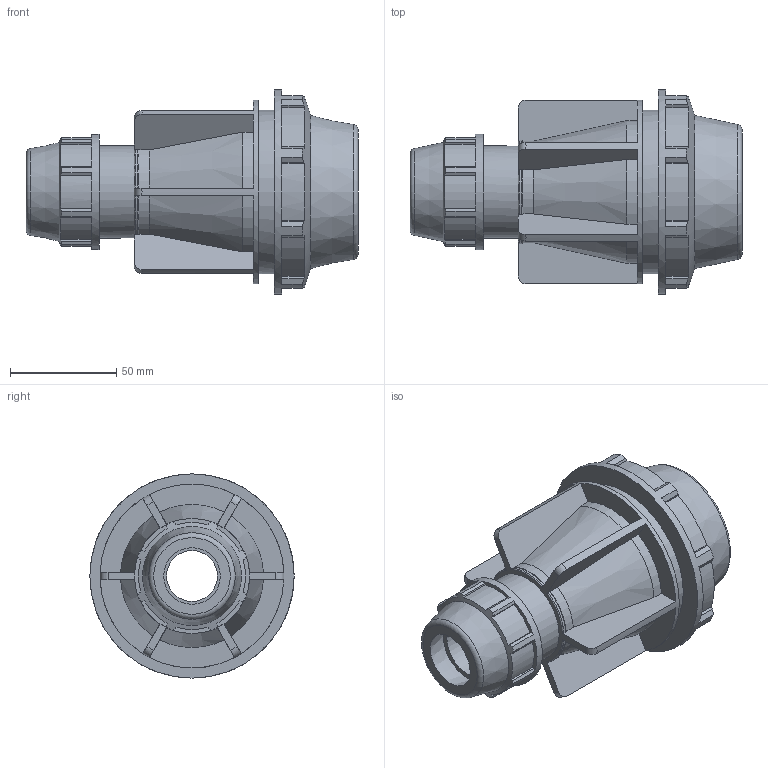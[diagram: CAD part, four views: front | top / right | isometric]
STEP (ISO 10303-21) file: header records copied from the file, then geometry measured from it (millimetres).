
FILE_DESCRIPTION(/* description */ ('PLASSON REDUCING COUPLER 1 1/4'''' - 1'''''),/* implementation_level */ '2;1');
FILE_NAME(/* name */ 'C:\Dropbox\KIMPROJECTS-Inventor 2019\99-16-3568-Processing Inch\ASTM Compression 2021\0711M0\0711M0015007.ipt.stp',/* time_stamp */ '2021-08-26T12:32:51+03:00',/* author */ ('KIM'),/* organization */ (''),/* preprocessor_version */ 'ST-DEVELOPER v17.2',/* originating_system */ 'Autodesk Inventor 2019',/* authorisation */ '');
FILE_SCHEMA (('AUTOMOTIVE_DESIGN { 1 0 10303 214 3 1 1 }'));
Length unit declared in the file: inch
Products named in the file (1): 0711M0015007
Bounding box: 156 x 96.01 x 96.01 mm (x, y, z)
Volume: 312212.9 mm3; surface area: 71901.4 mm2
Topology: 1 solids, 1 shells, 212 faces, 632 edges, 429 vertices
Faces by surface type: plane 137, cylinder 47, torus 14, cone 14
Full cylindrical faces by diameter (mm): 26.6 x1, 43.282 x1, 48.1 x1, 54.102 x1, 76.81 x1, 86.411 x1, 96.012 x1
Entity records: 7586 total; most frequent: CARTESIAN_POINT 1652, ORIENTED_EDGE 1264, DIRECTION 1153, EDGE_CURVE 632, VERTEX_POINT 429, AXIS2_PLACEMENT_3D 407, LINE 339, VECTOR 339
